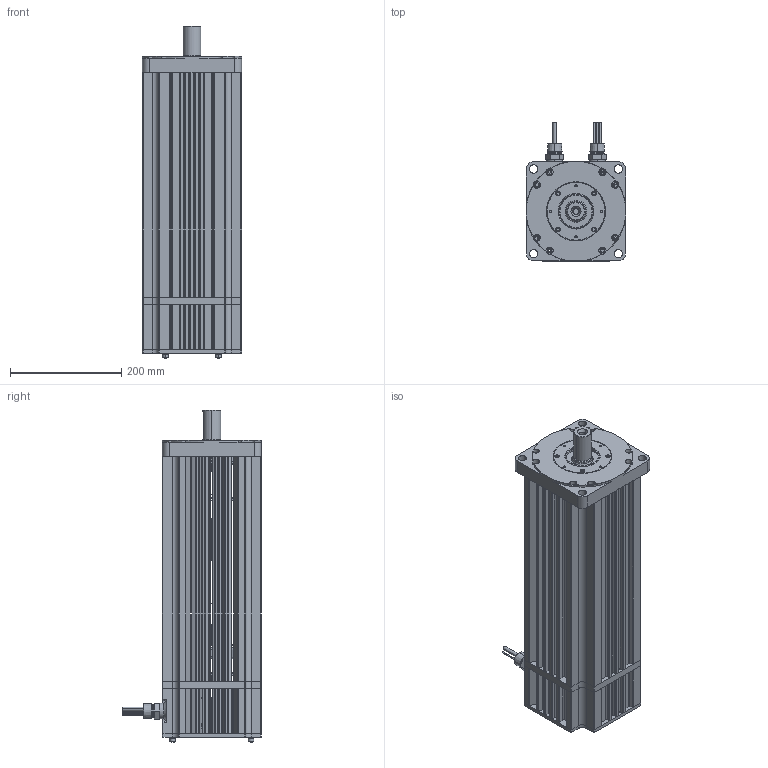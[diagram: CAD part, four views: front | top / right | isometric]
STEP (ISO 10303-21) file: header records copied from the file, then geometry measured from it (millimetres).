
FILE_DESCRIPTION (( 'STEP AP203' ), '1' );
FILE_NAME ('M477-XNS0-XX08.STEP', '2014-02-20T15:56:05', ( '' ), ( '' ), 'SwSTEP 2.0', 'SolidWorks 2014', '' );
FILE_SCHEMA (( 'CONFIG_CONTROL_DESIGN' ));
Length unit declared in the file: inch
Products named in the file (1): M477-XNS0-XX08
Bounding box: 177.8 x 248.92 x 595.6 mm (x, y, z)
Surface area: 789786.2 mm2 (no closed solid volume)
Topology: 0 solids, 270 shells, 1450 faces, 4601 edges, 3361 vertices
Faces by surface type: cylinder 639, plane 631, cone 97, torus 66, bspline 15, sphere 2
Entity records: 52603 total; most frequent: CARTESIAN_POINT 12042, DIRECTION 9153, ORIENTED_EDGE 6765, EDGE_CURVE 4589, AXIS2_PLACEMENT_3D 3411, VERTEX_POINT 3361, LINE 2331, VECTOR 2331
